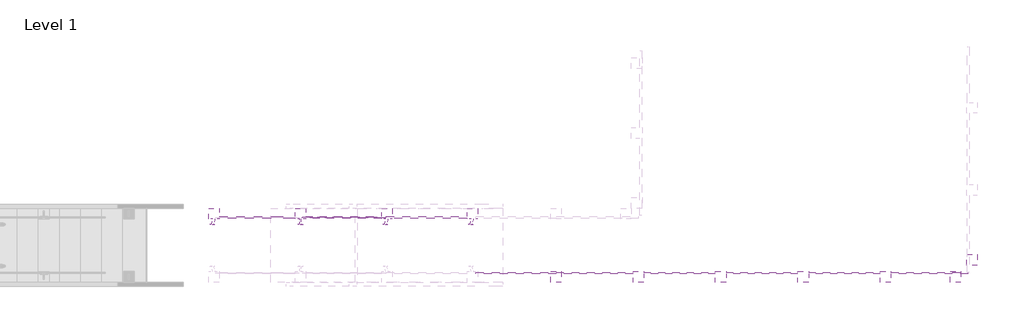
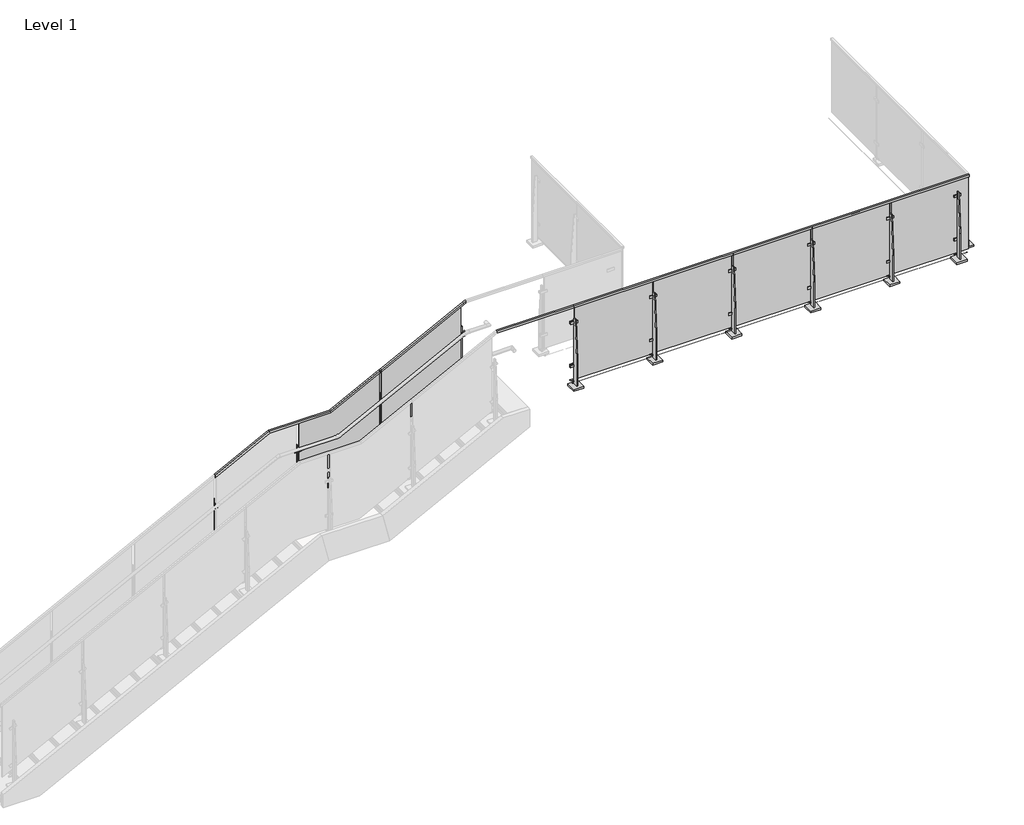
# One storey, part 25 of 37: 4 railings, 3 proxies.
"""IFC4 building model written with IfcOpenShell, lengths in millimetres."""

from ifc_helpers import new_model, si_unit, point, frame, frame_2d, origin, place, context, project, spatial, polyline, circle_curve, trimmed, segment, composite_curve, outline, extrude, faceted_brep, transform, mapped, element, save
from components import baluster_end_post_viva_solo_top_mount_e11f810b, baluster_end_post_viva_solo_top_mount_a5670d43, baluster_end_post_viva_solo_top_mount_67941749, baluster_landing_panel_viva_solo_upper_standard_glass_b2789405

model = new_model("IFC4")

# Units and contexts
model_context = context("Model", 3, world=origin())
ifc_project = project(units=[si_unit("LENGTHUNIT", "METRE", prefix="MILLI")], contexts=[model_context])

# Site, building, storey
site = spatial("IfcSite", under=ifc_project)
building = spatial("IfcBuilding", under=site)
storey = spatial("IfcBuildingStorey", under=building, Name="Level 1", Elevation=0.0)

# Proxies
placement = place(None, origin())
baluster_end_post_viva_solo_top_mount_shape = baluster_end_post_viva_solo_top_mount_e11f810b(model_context)
element("IfcBuildingElementProxy", 1, Name="Baluster-End-Post-VIVA-SOLO-Top Mount : ANCHORED TO CONCRETE_TOP MOUNT FOLD_STRAIGHT", ObjectType="Baluster-End-Post-VIVA-SOLO-Top Mount : ANCHORED TO CONCRETE_TOP MOUNT FOLD_STRAIGHT", at=placement, inside=storey, context=model_context, shape_type="MappedRepresentation", body=[
    mapped(baluster_end_post_viva_solo_top_mount_shape, transform((14529.6498344, 3844.054649, 3047.492), x_axis=(1.0, 0.0, 0.0), y_axis=(0.0, 1.0, 0.0), z_axis=(0.0, 0.0, 1.0))),
])
baluster_end_post_viva_solo_top_mount_2_shape = baluster_end_post_viva_solo_top_mount_a5670d43(model_context)
element("IfcBuildingElementProxy", 2, Name="Baluster-End-Post-VIVA-SOLO-Top Mount : ANCHORED TO CONCRETE_TOP MOUNT FOLD_STRAIGHT", ObjectType="Baluster-End-Post-VIVA-SOLO-Top Mount : ANCHORED TO CONCRETE_TOP MOUNT FOLD_STRAIGHT", at=placement, inside=storey, context=model_context, shape_type="MappedRepresentation", body=[
    mapped(baluster_end_post_viva_solo_top_mount_2_shape, transform((9449.6498344, 3844.054649, 3047.492), x_axis=(1.0, 0.0, 0.0), y_axis=(0.0, 1.0, 0.0), z_axis=(0.0, 0.0, 1.0))),
])
baluster_end_post_viva_solo_top_mount_3_shape = baluster_end_post_viva_solo_top_mount_67941749(model_context)
element("IfcBuildingElementProxy", 3, Name="Baluster-End-Post-VIVA-SOLO-Top Mount : ANCHORED TO CONCRETE_TOP MOUNT FOLD_STRAIGHT", ObjectType="Baluster-End-Post-VIVA-SOLO-Top Mount : ANCHORED TO CONCRETE_TOP MOUNT FOLD_STRAIGHT", at=placement, inside=storey, context=model_context, shape_type="MappedRepresentation", body=[
    mapped(baluster_end_post_viva_solo_top_mount_3_shape, transform((14498.2173344, 3818.4403158, 3047.492), x_axis=(0.0, 1.0, 0.0), y_axis=(-1.0, 0.0, 0.0), z_axis=(0.0, 0.0, 1.0))),
])

# Railings
baluster_landing_panel_viva_solo_upper_standard_glass_shape = baluster_landing_panel_viva_solo_upper_standard_glass_b2789405(model_context)
element("IfcRailing", 4, ObjectType="Baluster-Landing-Panel-VIVA-SOLO-Upper : Standard_Glass", at=placement, inside=storey, context=model_context, shape_type="MappedRepresentation", body=[
    mapped(baluster_landing_panel_viva_solo_upper_standard_glass_shape, transform((7346.0498081, 4531.6173783, 2120.3478261), x_axis=(0.0, -1.0, 0.0), y_axis=(1.0, 0.0, 0.0), z_axis=(0.0, 0.0, 1.0))),
])
element("IfcRailing", 5, ObjectType="VIVA-SOLO-Glass-Floor Mount-Landing", at=placement, inside=storey, context=model_context, shape_type="SolidModel", body=[
    faceted_brep([(5228.4873344, 4482.547149, 2882.4016967), (5228.4873344, 4504.772149, 2882.4016967), (5228.4873344, 4504.772149, 2853.9005081), (5228.4873344, 4500.009649, 2853.9005081), (5228.4873344, 4500.009649, 2877.0577238), (5228.4873344, 4487.309649, 2877.0577238), (5228.4873344, 4487.309649, 2853.9005081), (5228.4873344, 4482.547149, 2853.9005081), (5926.9873344, 4482.547149, 3237.9478261), (5926.9873344, 4504.772149, 3237.9478261), (5933.0798778, 4504.772149, 3212.5478261), (5933.0798778, 4500.009649, 3212.5478261), (5928.1296863, 4500.009649, 3233.1853261), (5928.1296863, 4487.309649, 3233.1853261), (5933.0798778, 4487.309649, 3212.5478261), (5933.0798778, 4482.547149, 3212.5478261), (6708.0373344, 4482.547149, 3237.9478261), (6708.0373344, 4504.772149, 3237.9478261), (6714.1298778, 4504.772149, 3212.5478261), (6714.1298778, 4500.009649, 3212.5478261), (6709.1796863, 4500.009649, 3233.1853261), (6709.1796863, 4487.309649, 3233.1853261), (6714.1298778, 4487.309649, 3212.5478261), (6714.1298778, 4482.547149, 3212.5478261), (7362.0873344, 4482.547149, 3570.8682927), (7362.0873344, 4482.547149, 3542.3671041), (7362.0873344, 4487.309649, 3542.3671041), (7362.0873344, 4487.309649, 3565.5243198), (7362.0873344, 4500.009649, 3565.5243198), (7362.0873344, 4500.009649, 3542.3671041), (7362.0873344, 4504.772149, 3542.3671041), (7362.0873344, 4504.772149, 3570.8682927)], [[[0, 1, 2, 3, 4, 5, 6, 7]], [[1, 0, 8, 9]], [[2, 1, 9, 10]], [[3, 2, 10, 11]], [[4, 3, 11, 12]], [[5, 4, 12, 13]], [[6, 5, 13, 14]], [[7, 6, 14, 15]], [[0, 7, 15, 8]], [[9, 8, 16, 17]], [[10, 9, 17, 18]], [[11, 10, 18, 19]], [[12, 11, 19, 20]], [[13, 12, 20, 21]], [[14, 13, 21, 22]], [[15, 14, 22, 23]], [[8, 15, 23, 16]], [[24, 25, 26, 27, 28, 29, 30, 31]], [[17, 16, 24, 31]], [[18, 17, 31, 30]], [[19, 18, 30, 29]], [[20, 19, 29, 28]], [[21, 20, 28, 27]], [[22, 21, 27, 26]], [[23, 22, 26, 25]], [[16, 23, 25, 24]]]),
    extrude(outline(polyline([(4509.534649, 2907.7478261), (4534.934649, 2907.7478261), (4573.034649, 2374.3478261), (4573.034649, 2120.3478261), (4509.534649, 2120.3478261), (4509.534649, 2907.7478261)])), frame((6288.9373344, 0.0, 0.0), z_axis=(1.0, 0.0, 0.0), x_axis=(0.0, 1.0, 0.0)), (0.0, 0.0, 1.0), 12.7),
    extrude(outline(composite_curve([segment(trimmed(circle_curve(frame_2d((4409.1154312, 2922.7272155)), 25.4), [point((4415.5388922, 2898.1528559))], [point((4402.7292179, 2898.1431499))], False, "CARTESIAN"), True, "CONTINUOUS"), segment(polyline([(4402.7292179, 2898.1431499), (4402.7292179, 2900.8476744)]), True, "CONTINUOUS"), segment(trimmed(circle_curve(frame_2d((4409.1154312, 2925.43174)), 25.4), [point((4402.7292179, 2900.8476744))], [point((4414.1617828, 2900.5380794))], True, "CARTESIAN"), True, "CONTINUOUS"), segment(polyline([(4414.1617828, 2900.5380794), (4415.5388922, 2898.1528559)]), True, "CONTINUOUS")], self_intersect=False)), frame((6269.8833871, 0.0, 0.0), z_axis=(1.0, 0.0, 0.0), x_axis=(0.0, 1.0, 0.0)), (0.0, 0.0, 1.0), 51.8675839),
    extrude(outline(polyline([(4403.172149, 2897.9541454), (4415.872149, 2897.9541454), (4415.872149, 2894.7791454), (4474.609649, 2863.0291454), (4477.784649, 2863.0291454), (4477.784649, 2832.8666454), (4466.672149, 2832.8666454), (4403.172149, 2894.7791454), (4403.172149, 2897.9541454)])), frame((6288.7819804, 0.0, 0.0), z_axis=(1.0, 0.0, 0.0), x_axis=(0.0, 1.0, 0.0)), (0.0, 0.0, 1.0), 12.6482649),
    extrude(outline(polyline([(6361.1685844, 4475.403399), (6229.4060844, 4475.403399), (6229.4060844, 4607.165899), (6361.1685844, 4607.165899), (6361.1685844, 4475.403399)])), frame((0.0, 0.0, 2120.3478261), z_axis=(0.0, 0.0, 1.0), x_axis=(1.0, 0.0, 0.0)), (0.0, 0.0, 1.0), 25.4),
    extrude(outline(polyline([(6250.8373344, 4500.009649), (6250.8373344, 4509.534649), (6339.7373344, 4509.534649), (6339.7373344, 4500.009649), (6250.8373344, 4500.009649)])), frame((0.0, 0.0, 2372.3388955), z_axis=(0.0, 0.0, 1.0), x_axis=(1.0, 0.0, 0.0)), (0.0, 0.0, 1.0), 31.75),
    extrude(outline(polyline([(6250.8373344, 4500.009649), (6250.8373344, 4509.534649), (6339.7373344, 4509.534649), (6339.7373344, 4500.009649), (6250.8373344, 4500.009649)])), frame((0.0, 0.0, 2831.6470448), z_axis=(0.0, 0.0, 1.0), x_axis=(1.0, 0.0, 0.0)), (0.0, 0.0, 1.0), 31.75),
    extrude(outline(polyline([(6250.8373344, 4477.784649), (6250.8373344, 4487.309649), (6339.7373344, 4487.309649), (6339.7373344, 4477.784649), (6250.8373344, 4477.784649)])), frame((0.0, 0.0, 2372.3388955), z_axis=(0.0, 0.0, 1.0), x_axis=(1.0, 0.0, 0.0)), (0.0, 0.0, 1.0), 31.75),
    extrude(outline(polyline([(6250.8373344, 4477.784649), (6250.8373344, 4487.309649), (6339.7373344, 4487.309649), (6339.7373344, 4477.784649), (6250.8373344, 4477.784649)])), frame((0.0, 0.0, 2831.6470448), z_axis=(0.0, 0.0, 1.0), x_axis=(1.0, 0.0, 0.0)), (0.0, 0.0, 1.0), 31.75),
    extrude(outline(polyline([(2196.5478261, 6339.7373344), (2196.5478261, 6250.8373344), (2190.1978261, 6250.8373344), (2168.2831774, 6295.2873344), (2190.1978261, 6339.7373344), (2196.5478261, 6339.7373344)])), frame((0.0, 4487.309649, 0.0), z_axis=(0.0, 1.0, 0.0), x_axis=(0.0, 0.0, 1.0)), (0.0, 0.0, 1.0), 12.7),
    extrude(outline(composite_curve([segment(trimmed(circle_curve(frame_2d((2388.2138955, 6295.2873344)), 6.35), [point((2388.2138955, 6301.6373344))], [point((2388.2138955, 6288.9373344))], False, "CARTESIAN"), True, "CONTINUOUS"), segment(trimmed(circle_curve(frame_2d((2388.2138955, 6295.2873344)), 6.35), [point((2388.2138955, 6288.9373344))], [point((2388.2138955, 6301.6373344))], False, "CARTESIAN"), True, "CONTINUOUS")], self_intersect=False)), frame((0.0, 4487.309649, 0.0), z_axis=(0.0, 1.0, 0.0), x_axis=(0.0, 0.0, 1.0)), (0.0, 0.0, 1.0), 12.7),
    extrude(outline(composite_curve([segment(trimmed(circle_curve(frame_2d((2847.5220448, 6295.2873344)), 6.35), [point((2847.5220448, 6301.6373344))], [point((2847.5220448, 6288.9373344))], False, "CARTESIAN"), True, "CONTINUOUS"), segment(trimmed(circle_curve(frame_2d((2847.5220448, 6295.2873344)), 6.35), [point((2847.5220448, 6288.9373344))], [point((2847.5220448, 6301.6373344))], False, "CARTESIAN"), True, "CONTINUOUS")], self_intersect=False)), frame((0.0, 4487.309649, 0.0), z_axis=(0.0, 1.0, 0.0), x_axis=(0.0, 0.0, 1.0)), (0.0, 0.0, 1.0), 12.7),
    extrude(outline(composite_curve([segment(trimmed(circle_curve(frame_2d((2180.6728261, 6295.2873344)), 11.1125), [point((2180.6728261, 6306.3998344))], [point((2180.6728261, 6284.1748344))], False, "CARTESIAN"), True, "CONTINUOUS"), segment(trimmed(circle_curve(frame_2d((2180.6728261, 6295.2873344)), 11.1125), [point((2180.6728261, 6284.1748344))], [point((2180.6728261, 6306.3998344))], False, "CARTESIAN"), True, "CONTINUOUS")], self_intersect=False)), frame((0.0, 4484.134649, 0.0), z_axis=(0.0, 1.0, 0.0), x_axis=(0.0, 0.0, 1.0)), (0.0, 0.0, 1.0), 25.4),
    extrude(outline(polyline([(-12.7, 0.0), (0.0, 0.0), (0.0, -3.175), (58.7375, -34.9249999), (61.9125, -34.9249999), (61.9125, -65.0875), (50.8, -65.0875), (-12.7, -3.175), (-12.7, 0.0)])), frame((7334.466871, 4415.872149, 3185.7729269), z_axis=(0.8987940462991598, 0.0, 0.4383711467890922), x_axis=(0.0, 1.0, 0.0)), (0.0, 0.0, 1.0), 12.7),
    extrude(outline(polyline([(4509.534649, 3240.6682927), (4534.934649, 3240.6682927), (4573.034649, 2707.2682927), (4573.034649, 2385.3913043), (4509.534649, 2385.3913043), (4509.534649, 3240.6682927)])), frame((7355.7373344, 0.0, 0.0), z_axis=(1.0, 0.0, 0.0), x_axis=(0.0, 1.0, 0.0)), (0.0, 0.0, 1.0), 12.7),
    extrude(outline(polyline([(0.0, 88.9000001), (9.525, 88.9000001), (9.525, 0.0), (0.0, 0.0), (0.0, 88.9000001)])), frame((7409.0060477, 4500.009649, 2681.3748204), z_axis=(-0.4383711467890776, 0.0, 0.8987940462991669), x_axis=(0.0, 1.0, 0.0)), (0.0, 0.0, 1.0), 31.75),
    extrude(outline(polyline([(0.0, 88.9000001), (9.525, 88.9000001), (9.525, 0.0), (0.0, 0.0), (0.0, 88.9000001)])), frame((7409.0060477, 4477.784649, 3148.8285059), z_axis=(-0.4383711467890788, 0.0, 0.8987940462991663), x_axis=(0.0, 1.0, 0.0)), (0.0, 0.0, 1.0), 31.75),
    extrude(outline(polyline([(0.0, 88.9000001), (9.525, 88.9000001), (9.525, 0.0), (0.0, 0.0), (0.0, 88.9000001)])), frame((7409.0060477, 4500.009649, 3148.8285059), z_axis=(-0.4383711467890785, 0.0, 0.8987940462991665), x_axis=(0.0, 1.0, 0.0)), (0.0, 0.0, 1.0), 31.75),
    extrude(outline(polyline([(0.0, 88.9000001), (9.525, 88.9000001), (9.525, 0.0), (0.0, 0.0), (0.0, 88.9000001)])), frame((7409.0060477, 4477.784649, 2681.3748204), z_axis=(-0.4383711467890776, 0.0, 0.8987940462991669), x_axis=(0.0, 1.0, 0.0)), (0.0, 0.0, 1.0), 31.75),
    extrude(outline(polyline([(2547.8861353, 7397.8574331), (2553.5934775, 7395.0737763), (2514.6222826, 7315.1709856), (2508.9149404, 7317.9546424), (2508.7037821, 7367.5127874), (2547.8861353, 7397.8574331)])), frame((0.0, 4487.309649, 0.0), z_axis=(0.0, 1.0, 0.0), x_axis=(0.0, 0.0, 1.0)), (0.0, 0.0, 1.0), 12.7),
    extrude(outline(composite_curve([segment(trimmed(circle_curve(frame_2d((24.5007934, -6.6985914)), 25.4), [point((0.0, 0.0))], [point((6.4034747, 11.1240644))], False, "CARTESIAN"), True, "CONTINUOUS"), segment(polyline([(6.4034747, 11.1240644), (8.7901892, 9.7460941)]), True, "CONTINUOUS"), segment(trimmed(circle_curve(frame_2d((26.8875078, -8.0765616)), 25.4), [point((8.7901892, 9.7460941))], [point((2.8057896, 0.0))], True, "CARTESIAN"), True, "CONTINUOUS"), segment(polyline([(2.8057896, 0.0), (0.0, 0.0)]), True, "CONTINUOUS")], self_intersect=False)), frame((7318.5457535, 4415.9713954, 3174.9597282), z_axis=(0.8987940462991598, 0.0, 0.4383711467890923), x_axis=(-0.37964054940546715, -0.5000000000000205, 0.7783784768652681)), (0.0, 0.0, 1.0), 50.8),
    extrude(outline(polyline([(7427.9685844, 4475.403399), (7296.2060844, 4475.403399), (7296.2060844, 4607.165899), (7427.9685844, 4607.165899), (7427.9685844, 4475.403399)])), frame((0.0, 0.0, 2385.3913043), z_axis=(0.0, 0.0, 1.0), x_axis=(1.0, 0.0, 0.0)), (0.0, 0.0, 1.0), 25.4),
    extrude(outline(composite_curve([segment(trimmed(circle_curve(frame_2d((2677.2195227, 7362.0955103)), 6.35), [point((2677.2195227, 7368.4455103))], [point((2677.2195227, 7355.7455103))], False, "CARTESIAN"), True, "CONTINUOUS"), segment(trimmed(circle_curve(frame_2d((2677.2195227, 7362.0955103)), 6.35), [point((2677.2195227, 7355.7455103))], [point((2677.2195227, 7368.4455103))], False, "CARTESIAN"), True, "CONTINUOUS")], self_intersect=False)), frame((0.0, 4487.309649, 0.0), z_axis=(0.0, 1.0, 0.0), x_axis=(0.0, 0.0, 1.0)), (0.0, 0.0, 1.0), 12.7),
    extrude(outline(composite_curve([segment(trimmed(circle_curve(frame_2d((3143.6112639, 7362.0955103)), 6.35), [point((3143.6112639, 7368.4455103))], [point((3143.6112639, 7355.7455103))], False, "CARTESIAN"), True, "CONTINUOUS"), segment(trimmed(circle_curve(frame_2d((3143.6112639, 7362.0955103)), 6.35), [point((3143.6112639, 7355.7455103))], [point((3143.6112639, 7368.4455103))], False, "CARTESIAN"), True, "CONTINUOUS")], self_intersect=False)), frame((0.0, 4487.309649, 0.0), z_axis=(0.0, 1.0, 0.0), x_axis=(0.0, 0.0, 1.0)), (0.0, 0.0, 1.0), 12.7),
    extrude(outline(composite_curve([segment(trimmed(circle_curve(frame_2d((2519.9003816, 7362.0955103)), 11.1125), [point((2519.9003816, 7373.2080103))], [point((2519.9003816, 7350.9830103))], False, "CARTESIAN"), True, "CONTINUOUS"), segment(trimmed(circle_curve(frame_2d((2519.9003816, 7362.0955103)), 11.1125), [point((2519.9003816, 7350.9830103))], [point((2519.9003816, 7373.2080103))], False, "CARTESIAN"), True, "CONTINUOUS")], self_intersect=False)), frame((0.0, 4484.134649, 0.0), z_axis=(0.0, 1.0, 0.0), x_axis=(0.0, 0.0, 1.0)), (0.0, 0.0, 1.0), 25.4),
    extrude(outline(polyline([(-12.7, 0.0), (0.0, 0.0), (0.0, -3.1749999), (58.7375, -34.9249999), (61.9125, -34.9249999), (61.9125, -65.0874999), (50.8, -65.0874999), (-12.7, -3.1749999), (-12.7, 0.0)])), frame((5200.866871, 4415.872149, 2497.3063309), z_axis=(0.8987940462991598, 0.0, 0.4383711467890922), x_axis=(0.0, 1.0, 0.0)), (0.0, 0.0, 1.0), 12.7),
    extrude(outline(polyline([(4509.534649, 2552.2016967), (4534.934649, 2552.2016967), (4573.034649, 2018.8016967), (4573.034649, 1722.7826087), (4509.534649, 1722.7826087), (4509.534649, 2552.2016967)])), frame((5222.1373344, 0.0, 0.0), z_axis=(1.0, 0.0, 0.0), x_axis=(0.0, 1.0, 0.0)), (0.0, 0.0, 1.0), 12.7),
    extrude(outline(polyline([(0.0, 88.9000001), (9.525, 88.9000001), (9.525, 0.0), (0.0, 0.0), (0.0, 88.9000001)])), frame((5275.4060477, 4500.009649, 2018.7661247), z_axis=(-0.4383711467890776, 0.0, 0.8987940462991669), x_axis=(0.0, 1.0, 0.0)), (0.0, 0.0, 1.0), 31.75),
    extrude(outline(polyline([(0.0, 88.9000001), (9.525, 88.9000001), (9.525, 0.0), (0.0, 0.0), (0.0, 88.9000001)])), frame((5275.4060477, 4477.784649, 2460.3619099), z_axis=(-0.4383711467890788, 0.0, 0.8987940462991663), x_axis=(0.0, 1.0, 0.0)), (0.0, 0.0, 1.0), 31.75),
    extrude(outline(polyline([(0.0, 88.9000001), (9.525, 88.9000001), (9.525, 0.0), (0.0, 0.0), (0.0, 88.9000001)])), frame((5275.4060477, 4500.009649, 2460.3619099), z_axis=(-0.4383711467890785, 0.0, 0.8987940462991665), x_axis=(0.0, 1.0, 0.0)), (0.0, 0.0, 1.0), 31.75),
    extrude(outline(polyline([(0.0, 88.9000001), (9.525, 88.9000001), (9.525, 0.0), (0.0, 0.0), (0.0, 88.9000001)])), frame((5275.4060477, 4477.784649, 2018.7661247), z_axis=(-0.4383711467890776, 0.0, 0.8987940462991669), x_axis=(0.0, 1.0, 0.0)), (0.0, 0.0, 1.0), 31.75),
    extrude(outline(polyline([(1885.2774397, 5264.2574331), (1890.9847819, 5261.4737763), (1852.0135869, 5181.5709856), (1846.3062447, 5184.3546424), (1846.0950864, 5233.9127874), (1885.2774397, 5264.2574331)])), frame((0.0, 4487.309649, 0.0), z_axis=(0.0, 1.0, 0.0), x_axis=(0.0, 0.0, 1.0)), (0.0, 0.0, 1.0), 12.7),
    extrude(outline(composite_curve([segment(trimmed(circle_curve(frame_2d((24.5007934, -6.6985914)), 25.4), [point((0.0, 0.0))], [point((6.4034747, 11.1240644))], False, "CARTESIAN"), True, "CONTINUOUS"), segment(polyline([(6.4034747, 11.1240644), (8.7901892, 9.7460941)]), True, "CONTINUOUS"), segment(trimmed(circle_curve(frame_2d((26.8875079, -8.0765616)), 25.4), [point((8.7901892, 9.7460941))], [point((2.8057897, 0.0))], True, "CARTESIAN"), True, "CONTINUOUS"), segment(polyline([(2.8057897, 0.0), (0.0, 0.0)]), True, "CONTINUOUS")], self_intersect=False)), frame((5184.9457535, 4415.9713954, 2486.4931322), z_axis=(0.8987940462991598, 0.0, 0.4383711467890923), x_axis=(-0.37964054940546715, -0.5000000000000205, 0.7783784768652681)), (0.0, 0.0, 1.0), 50.8),
    extrude(outline(polyline([(5294.3685844, 4475.403399), (5162.6060844, 4475.403399), (5162.6060844, 4607.165899), (5294.3685844, 4607.165899), (5294.3685844, 4475.403399)])), frame((0.0, 0.0, 1722.7826087), z_axis=(0.0, 0.0, 1.0), x_axis=(1.0, 0.0, 0.0)), (0.0, 0.0, 1.0), 25.4),
    extrude(outline(composite_curve([segment(trimmed(circle_curve(frame_2d((2014.610827, 5228.4955103)), 6.35), [point((2014.610827, 5234.8455103))], [point((2014.610827, 5222.1455103))], False, "CARTESIAN"), True, "CONTINUOUS"), segment(trimmed(circle_curve(frame_2d((2014.610827, 5228.4955103)), 6.35), [point((2014.610827, 5222.1455103))], [point((2014.610827, 5234.8455103))], False, "CARTESIAN"), True, "CONTINUOUS")], self_intersect=False)), frame((0.0, 4487.309649, 0.0), z_axis=(0.0, 1.0, 0.0), x_axis=(0.0, 0.0, 1.0)), (0.0, 0.0, 1.0), 12.7),
    extrude(outline(composite_curve([segment(trimmed(circle_curve(frame_2d((2455.144668, 5228.4955103)), 6.35), [point((2455.144668, 5234.8455103))], [point((2455.144668, 5222.1455103))], False, "CARTESIAN"), True, "CONTINUOUS"), segment(trimmed(circle_curve(frame_2d((2455.144668, 5228.4955103)), 6.35), [point((2455.144668, 5222.1455103))], [point((2455.144668, 5234.8455103))], False, "CARTESIAN"), True, "CONTINUOUS")], self_intersect=False)), frame((0.0, 4487.309649, 0.0), z_axis=(0.0, 1.0, 0.0), x_axis=(0.0, 0.0, 1.0)), (0.0, 0.0, 1.0), 12.7),
    extrude(outline(composite_curve([segment(trimmed(circle_curve(frame_2d((1857.2916859, 5228.4955103)), 11.1125), [point((1857.2916859, 5239.6080103))], [point((1857.2916859, 5217.3830103))], False, "CARTESIAN"), True, "CONTINUOUS"), segment(trimmed(circle_curve(frame_2d((1857.2916859, 5228.4955103)), 11.1125), [point((1857.2916859, 5217.3830103))], [point((1857.2916859, 5239.6080103))], False, "CARTESIAN"), True, "CONTINUOUS")], self_intersect=False)), frame((0.0, 4484.134649, 0.0), z_axis=(0.0, 1.0, 0.0), x_axis=(0.0, 0.0, 1.0)), (0.0, 0.0, 1.0), 25.4),
])
element("IfcRailing", 6, ObjectType="VIVA-SOLO-Glass-Floor Mount-Stair_Right_Upper", at=placement, inside=storey, context=model_context, shape_type="SolidModel", body=[
    faceted_brep([(7349.3873344, 4482.547149, 3564.4038176), (7349.3873344, 4504.772149, 3564.4038176), (7349.3873344, 4504.772149, 3535.902629), (7349.3873344, 4500.009649, 3535.902629), (7349.3873344, 4500.009649, 3559.0598447), (7349.3873344, 4487.309649, 3559.0598447), (7349.3873344, 4487.309649, 3535.902629), (7349.3873344, 4482.547149, 3535.902629), (8416.1873344, 4482.547149, 4107.4197243), (8416.1873344, 4504.772149, 4107.4197243), (8427.7094971, 4504.772149, 4084.7834754), (8427.7094971, 4500.009649, 4084.7834754), (8418.3477399, 4500.009649, 4103.1754276), (8418.3477399, 4487.309649, 4103.1754276), (8427.7094971, 4487.309649, 4084.7834754), (8427.7094971, 4482.547149, 4084.7834754), (8455.6367094, 4482.547149, 4127.5), (8455.6367094, 4482.547149, 4098.9988114), (8455.6367094, 4487.309649, 4098.9988114), (8455.6367094, 4487.309649, 4122.1560271), (8455.6367094, 4500.009649, 4122.1560271), (8455.6367094, 4500.009649, 4098.9988114), (8455.6367094, 4504.772149, 4098.9988114), (8455.6367094, 4504.772149, 4127.5)], [[[0, 1, 2, 3, 4, 5, 6, 7]], [[1, 0, 8, 9]], [[2, 1, 9, 10]], [[3, 2, 10, 11]], [[4, 3, 11, 12]], [[5, 4, 12, 13]], [[6, 5, 13, 14]], [[7, 6, 14, 15]], [[0, 7, 15, 8]], [[16, 17, 18, 19, 20, 21, 22, 23]], [[9, 8, 16, 23]], [[10, 9, 23, 22]], [[11, 10, 22, 21]], [[12, 11, 21, 20]], [[13, 12, 20, 19]], [[14, 13, 19, 18]], [[15, 14, 18, 17]], [[8, 15, 17, 16]]]),
    extrude(outline(polyline([(4089.1567741, 8391.170381), (3571.9987678, 7375.170381), (2544.2557794, 7375.170381), (3061.4137858, 8391.170381), (4089.1567741, 8391.170381)])), frame((0.0, 4487.309649, 0.0), z_axis=(0.0, 1.0, 0.0), x_axis=(0.0, 0.0, 1.0)), (0.0, 0.0, 1.0), 12.7),
    extrude(outline(polyline([(-12.7, 0.0), (0.0, 0.0), (0.0, -3.175), (58.7375, -34.9249999), (61.9125, -34.9249999), (61.9125, -65.0875), (50.8, -65.0875), (-12.7, -3.175), (-12.7, 0.0)])), frame((8388.566871, 4415.872149, 3722.3243585), z_axis=(0.8987940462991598, 0.0, 0.4383711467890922), x_axis=(0.0, 1.0, 0.0)), (0.0, 0.0, 1.0), 12.7),
    extrude(outline(polyline([(4509.534649, 3777.2197243), (4534.934649, 3777.2197243), (4573.034649, 3243.8197243), (4573.034649, 2915.4782609), (4509.534649, 2915.4782609), (4509.534649, 3777.2197243)])), frame((8409.8373344, 0.0, 0.0), z_axis=(1.0, 0.0, 0.0), x_axis=(0.0, 1.0, 0.0)), (0.0, 0.0, 1.0), 12.7),
    extrude(outline(polyline([(0.0, 88.9000001), (9.525, 88.9000001), (9.525, 0.0), (0.0, 0.0), (0.0, 88.9000001)])), frame((8463.1060477, 4500.009649, 3211.4617769), z_axis=(-0.4383711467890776, 0.0, 0.8987940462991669), x_axis=(0.0, 1.0, 0.0)), (0.0, 0.0, 1.0), 31.75),
    extrude(outline(polyline([(0.0, 88.9000001), (9.525, 88.9000001), (9.525, 0.0), (0.0, 0.0), (0.0, 88.9000001)])), frame((8463.1060477, 4477.784649, 3685.3799375), z_axis=(-0.4383711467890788, 0.0, 0.8987940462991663), x_axis=(0.0, 1.0, 0.0)), (0.0, 0.0, 1.0), 31.75),
    extrude(outline(polyline([(0.0, 88.9000001), (9.525, 88.9000001), (9.525, 0.0), (0.0, 0.0), (0.0, 88.9000001)])), frame((8463.1060477, 4500.009649, 3685.3799375), z_axis=(-0.4383711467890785, 0.0, 0.8987940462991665), x_axis=(0.0, 1.0, 0.0)), (0.0, 0.0, 1.0), 31.75),
    extrude(outline(polyline([(0.0, 88.9000001), (9.525, 88.9000001), (9.525, 0.0), (0.0, 0.0), (0.0, 88.9000001)])), frame((8463.1060477, 4477.784649, 3211.4617769), z_axis=(-0.4383711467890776, 0.0, 0.8987940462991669), x_axis=(0.0, 1.0, 0.0)), (0.0, 0.0, 1.0), 31.75),
    extrude(outline(polyline([(3077.9730919, 8451.9574331), (3083.6804341, 8449.1737763), (3044.7092391, 8369.2709856), (3039.0018969, 8372.0546424), (3038.7907386, 8421.6127874), (3077.9730919, 8451.9574331)])), frame((0.0, 4487.309649, 0.0), z_axis=(0.0, 1.0, 0.0), x_axis=(0.0, 0.0, 1.0)), (0.0, 0.0, 1.0), 12.7),
    extrude(outline(composite_curve([segment(trimmed(circle_curve(frame_2d((24.5007934, -6.6985914)), 25.4), [point((0.0, 0.0))], [point((6.4034747, 11.1240644))], False, "CARTESIAN"), True, "CONTINUOUS"), segment(polyline([(6.4034747, 11.1240644), (8.7901892, 9.7460941)]), True, "CONTINUOUS"), segment(trimmed(circle_curve(frame_2d((26.8875078, -8.0765616)), 25.4), [point((8.7901892, 9.7460941))], [point((2.8057896, 0.0))], True, "CARTESIAN"), True, "CONTINUOUS"), segment(polyline([(2.8057896, 0.0), (0.0, 0.0)]), True, "CONTINUOUS")], self_intersect=False)), frame((8372.6457535, 4415.9713954, 3711.5111598), z_axis=(0.8987940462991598, 0.0, 0.4383711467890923), x_axis=(-0.3796405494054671, -0.5000000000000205, 0.7783784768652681)), (0.0, 0.0, 1.0), 50.8),
    extrude(outline(polyline([(8482.0685844, 4475.403399), (8350.3060844, 4475.403399), (8350.3060844, 4607.165899), (8482.0685844, 4607.165899), (8482.0685844, 4475.403399)])), frame((0.0, 0.0, 2915.4782609), z_axis=(0.0, 0.0, 1.0), x_axis=(1.0, 0.0, 0.0)), (0.0, 0.0, 1.0), 25.4),
    extrude(outline(composite_curve([segment(trimmed(circle_curve(frame_2d((3207.3064792, 8416.1955103)), 6.35), [point((3207.3064792, 8422.5455103))], [point((3207.3064792, 8409.8455103))], False, "CARTESIAN"), True, "CONTINUOUS"), segment(trimmed(circle_curve(frame_2d((3207.3064792, 8416.1955103)), 6.35), [point((3207.3064792, 8409.8455103))], [point((3207.3064792, 8422.5455103))], False, "CARTESIAN"), True, "CONTINUOUS")], self_intersect=False)), frame((0.0, 4487.309649, 0.0), z_axis=(0.0, 1.0, 0.0), x_axis=(0.0, 0.0, 1.0)), (0.0, 0.0, 1.0), 12.7),
    extrude(outline(composite_curve([segment(trimmed(circle_curve(frame_2d((3680.1626955, 8416.1955103)), 6.35), [point((3680.1626955, 8422.5455103))], [point((3680.1626955, 8409.8455103))], False, "CARTESIAN"), True, "CONTINUOUS"), segment(trimmed(circle_curve(frame_2d((3680.1626955, 8416.1955103)), 6.35), [point((3680.1626955, 8409.8455103))], [point((3680.1626955, 8422.5455103))], False, "CARTESIAN"), True, "CONTINUOUS")], self_intersect=False)), frame((0.0, 4487.309649, 0.0), z_axis=(0.0, 1.0, 0.0), x_axis=(0.0, 0.0, 1.0)), (0.0, 0.0, 1.0), 12.7),
    extrude(outline(composite_curve([segment(trimmed(circle_curve(frame_2d((3049.9873381, 8416.1955103)), 11.1125), [point((3049.9873381, 8427.3080103))], [point((3049.9873381, 8405.0830103))], False, "CARTESIAN"), True, "CONTINUOUS"), segment(trimmed(circle_curve(frame_2d((3049.9873381, 8416.1955103)), 11.1125), [point((3049.9873381, 8405.0830103))], [point((3049.9873381, 8427.3080103))], False, "CARTESIAN"), True, "CONTINUOUS")], self_intersect=False)), frame((0.0, 4484.134649, 0.0), z_axis=(0.0, 1.0, 0.0), x_axis=(0.0, 0.0, 1.0)), (0.0, 0.0, 1.0), 25.4),
])
element("IfcRailing", 7, ObjectType="VIVA-SOLO-Glass-Floor Mount-Straight", at=placement, inside=storey, context=model_context, shape_type="SolidModel", body=[
    extrude(outline(composite_curve([segment(trimmed(circle_curve(frame_2d((3844.054649, 3047.746)), 0.254), [point((3843.800649, 3047.746))], [point((3844.308649, 3047.746))], False, "CARTESIAN"), True, "CONTINUOUS"), segment(trimmed(circle_curve(frame_2d((3844.054649, 3047.746)), 0.254), [point((3844.308649, 3047.746))], [point((3843.800649, 3047.746))], False, "CARTESIAN"), True, "CONTINUOUS")], self_intersect=False)), frame((9449.6498344, 0.0, 0.0), z_axis=(1.0, 0.0, 0.0), x_axis=(0.0, 1.0, 0.0)), (0.0, 0.0, 1.0), 5080.0),
    extrude(outline(composite_curve([segment(trimmed(circle_curve(frame_2d((3844.054649, 3047.746)), 0.254), [point((3843.800649, 3047.746))], [point((3844.308649, 3047.746))], False, "CARTESIAN"), True, "CONTINUOUS"), segment(trimmed(circle_curve(frame_2d((3844.054649, 3047.746)), 0.254), [point((3844.308649, 3047.746))], [point((3843.800649, 3047.746))], False, "CARTESIAN"), True, "CONTINUOUS")], self_intersect=False)), frame((9449.6498344, 0.0, 0.0), z_axis=(1.0, 0.0, 0.0), x_axis=(0.0, 1.0, 0.0)), (0.0, 0.0, 1.0), 5080.0),
    faceted_brep([(14529.6498344, 3796.747149, 4127.5), (14529.6498344, 3796.747149, 4102.1), (14529.6498344, 3801.509649, 4102.1), (14529.6498344, 3801.509649, 4122.7375), (14529.6498344, 3814.209649, 4122.7375), (14529.6498344, 3814.209649, 4102.1), (14529.6498344, 3818.972149, 4102.1), (14529.6498344, 3818.972149, 4127.5), (9449.6498344, 3818.972149, 4127.5), (9449.6498344, 3796.747149, 4127.5), (9449.6498344, 3818.972149, 4102.1), (9449.6498344, 3814.209649, 4102.1), (9449.6498344, 3814.209649, 4122.7375), (9449.6498344, 3801.509649, 4122.7375), (9449.6498344, 3801.509649, 4102.1), (9449.6498344, 3796.747149, 4102.1), (8455.6367094, 3796.747149, 4127.5), (8455.6367094, 3818.972149, 4127.5), (8455.6367094, 3818.972149, 4102.1), (8455.6367094, 3814.209649, 4102.1), (8455.6367094, 3814.209649, 4122.7375), (8455.6367094, 3801.509649, 4122.7375), (8455.6367094, 3801.509649, 4102.1), (8455.6367094, 3796.747149, 4102.1)], [[[0, 1, 2, 3, 4, 5, 6, 7]], [[8, 9, 0, 7]], [[10, 8, 7, 6]], [[11, 10, 6, 5]], [[12, 11, 5, 4]], [[13, 12, 4, 3]], [[14, 13, 3, 2]], [[15, 14, 2, 1]], [[9, 15, 1, 0]], [[16, 17, 18, 19, 20, 21, 22, 23]], [[17, 16, 9, 8]], [[18, 17, 8, 10]], [[19, 18, 10, 11]], [[20, 19, 11, 12]], [[21, 20, 12, 13]], [[22, 21, 13, 14]], [[23, 22, 14, 15]], [[16, 23, 15, 9]]]),
    extrude(outline(polyline([(13526.732881, 3814.209649), (14517.332881, 3814.209649), (14517.332881, 3801.509649), (13526.732881, 3801.509649), (13526.732881, 3814.209649)])), frame((0.0, 0.0, 3124.2), z_axis=(0.0, 0.0, 1.0), x_axis=(1.0, 0.0, 0.0)), (0.0, 0.0, 1.0), 998.474),
    extrude(outline(polyline([(3791.984649, 3962.4), (3791.984649, 3048.0), (3728.484649, 3048.0), (3728.484649, 3429.0), (3766.584649, 3962.4), (3791.984649, 3962.4)])), frame((13507.2998344, 0.0, 0.0), z_axis=(1.0, 0.0, 0.0), x_axis=(0.0, 1.0, 0.0)), (0.0, 0.0, 1.0), 12.7),
    extrude(outline(polyline([(13579.5310844, 3826.115899), (13579.5310844, 3694.353399), (13447.7685844, 3694.353399), (13447.7685844, 3826.115899), (13579.5310844, 3826.115899)])), frame((0.0, 0.0, 3048.0), z_axis=(0.0, 0.0, 1.0), x_axis=(1.0, 0.0, 0.0)), (0.0, 0.0, 1.0), 25.4),
    extrude(outline(polyline([(13469.1998344, 3801.509649), (13558.0998344, 3801.509649), (13558.0998344, 3791.984649), (13469.1998344, 3791.984649), (13469.1998344, 3801.509649)])), frame((0.0, 0.0, 3299.9910694), z_axis=(0.0, 0.0, 1.0), x_axis=(1.0, 0.0, 0.0)), (0.0, 0.0, 1.0), 31.75),
    extrude(outline(polyline([(13469.1998344, 3801.509649), (13558.0998344, 3801.509649), (13558.0998344, 3791.984649), (13469.1998344, 3791.984649), (13469.1998344, 3801.509649)])), frame((0.0, 0.0, 3886.2992187), z_axis=(0.0, 0.0, 1.0), x_axis=(1.0, 0.0, 0.0)), (0.0, 0.0, 1.0), 31.75),
    extrude(outline(polyline([(13469.1998344, 3823.734649), (13558.0998344, 3823.734649), (13558.0998344, 3814.209649), (13469.1998344, 3814.209649), (13469.1998344, 3823.734649)])), frame((0.0, 0.0, 3299.9910694), z_axis=(0.0, 0.0, 1.0), x_axis=(1.0, 0.0, 0.0)), (0.0, 0.0, 1.0), 31.75),
    extrude(outline(polyline([(13469.1998344, 3823.734649), (13558.0998344, 3823.734649), (13558.0998344, 3814.209649), (13469.1998344, 3814.209649), (13469.1998344, 3823.734649)])), frame((0.0, 0.0, 3886.2992187), z_axis=(0.0, 0.0, 1.0), x_axis=(1.0, 0.0, 0.0)), (0.0, 0.0, 1.0), 31.75),
    extrude(outline(polyline([(3124.2, 13558.0998344), (3124.2, 13469.1998344), (3117.85, 13469.1998344), (3095.9353513, 13513.6498344), (3117.85, 13558.0998344), (3124.2, 13558.0998344)])), frame((0.0, 3801.509649, 0.0), z_axis=(0.0, 1.0, 0.0), x_axis=(0.0, 0.0, 1.0)), (0.0, 0.0, 1.0), 12.7),
    extrude(outline(composite_curve([segment(trimmed(circle_curve(frame_2d((3315.8660694, 13513.6498344)), 6.35), [point((3315.8660694, 13519.9998344))], [point((3315.8660694, 13507.2998344))], False, "CARTESIAN"), True, "CONTINUOUS"), segment(trimmed(circle_curve(frame_2d((3315.8660694, 13513.6498344)), 6.35), [point((3315.8660694, 13507.2998344))], [point((3315.8660694, 13519.9998344))], False, "CARTESIAN"), True, "CONTINUOUS")], self_intersect=False)), frame((0.0, 3801.509649, 0.0), z_axis=(0.0, 1.0, 0.0), x_axis=(0.0, 0.0, 1.0)), (0.0, 0.0, 1.0), 12.7),
    extrude(outline(composite_curve([segment(trimmed(circle_curve(frame_2d((3902.1742187, 13513.6498344)), 6.35), [point((3902.1742187, 13519.9998344))], [point((3902.1742187, 13507.2998344))], False, "CARTESIAN"), True, "CONTINUOUS"), segment(trimmed(circle_curve(frame_2d((3902.1742187, 13513.6498344)), 6.35), [point((3902.1742187, 13507.2998344))], [point((3902.1742187, 13519.9998344))], False, "CARTESIAN"), True, "CONTINUOUS")], self_intersect=False)), frame((0.0, 3801.509649, 0.0), z_axis=(0.0, 1.0, 0.0), x_axis=(0.0, 0.0, 1.0)), (0.0, 0.0, 1.0), 12.7),
    extrude(outline(composite_curve([segment(trimmed(circle_curve(frame_2d((3108.325, 13513.6498344)), 11.1125), [point((3108.325, 13524.7623344))], [point((3108.325, 13502.5373344))], False, "CARTESIAN"), True, "CONTINUOUS"), segment(trimmed(circle_curve(frame_2d((3108.325, 13513.6498344)), 11.1125), [point((3108.325, 13502.5373344))], [point((3108.325, 13524.7623344))], False, "CARTESIAN"), True, "CONTINUOUS")], self_intersect=False)), frame((0.0, 3791.984649, 0.0), z_axis=(0.0, 1.0, 0.0), x_axis=(0.0, 0.0, 1.0)), (0.0, 0.0, 1.0), 25.4),
    extrude(outline(polyline([(12510.732881, 3814.209649), (13501.332881, 3814.209649), (13501.332881, 3801.509649), (12510.732881, 3801.509649), (12510.732881, 3814.209649)])), frame((0.0, 0.0, 3124.2), z_axis=(0.0, 0.0, 1.0), x_axis=(1.0, 0.0, 0.0)), (0.0, 0.0, 1.0), 998.474),
    extrude(outline(polyline([(3791.984649, 3962.4), (3791.984649, 3048.0), (3728.484649, 3048.0), (3728.484649, 3429.0), (3766.584649, 3962.4), (3791.984649, 3962.4)])), frame((12491.2998344, 0.0, 0.0), z_axis=(1.0, 0.0, 0.0), x_axis=(0.0, 1.0, 0.0)), (0.0, 0.0, 1.0), 12.7),
    extrude(outline(polyline([(12563.5310844, 3826.115899), (12563.5310844, 3694.353399), (12431.7685844, 3694.353399), (12431.7685844, 3826.115899), (12563.5310844, 3826.115899)])), frame((0.0, 0.0, 3048.0), z_axis=(0.0, 0.0, 1.0), x_axis=(1.0, 0.0, 0.0)), (0.0, 0.0, 1.0), 25.4),
    extrude(outline(polyline([(12453.1998344, 3801.509649), (12542.0998344, 3801.509649), (12542.0998344, 3791.984649), (12453.1998344, 3791.984649), (12453.1998344, 3801.509649)])), frame((0.0, 0.0, 3299.9910694), z_axis=(0.0, 0.0, 1.0), x_axis=(1.0, 0.0, 0.0)), (0.0, 0.0, 1.0), 31.75),
    extrude(outline(polyline([(12453.1998344, 3801.509649), (12542.0998344, 3801.509649), (12542.0998344, 3791.984649), (12453.1998344, 3791.984649), (12453.1998344, 3801.509649)])), frame((0.0, 0.0, 3886.2992187), z_axis=(0.0, 0.0, 1.0), x_axis=(1.0, 0.0, 0.0)), (0.0, 0.0, 1.0), 31.75),
    extrude(outline(polyline([(12453.1998344, 3823.734649), (12542.0998344, 3823.734649), (12542.0998344, 3814.209649), (12453.1998344, 3814.209649), (12453.1998344, 3823.734649)])), frame((0.0, 0.0, 3299.9910694), z_axis=(0.0, 0.0, 1.0), x_axis=(1.0, 0.0, 0.0)), (0.0, 0.0, 1.0), 31.75),
    extrude(outline(polyline([(12453.1998344, 3823.734649), (12542.0998344, 3823.734649), (12542.0998344, 3814.209649), (12453.1998344, 3814.209649), (12453.1998344, 3823.734649)])), frame((0.0, 0.0, 3886.2992187), z_axis=(0.0, 0.0, 1.0), x_axis=(1.0, 0.0, 0.0)), (0.0, 0.0, 1.0), 31.75),
    extrude(outline(polyline([(3124.2, 12542.0998344), (3124.2, 12453.1998344), (3117.85, 12453.1998344), (3095.9353513, 12497.6498344), (3117.85, 12542.0998344), (3124.2, 12542.0998344)])), frame((0.0, 3801.509649, 0.0), z_axis=(0.0, 1.0, 0.0), x_axis=(0.0, 0.0, 1.0)), (0.0, 0.0, 1.0), 12.7),
    extrude(outline(composite_curve([segment(trimmed(circle_curve(frame_2d((3315.8660694, 12497.6498344)), 6.35), [point((3315.8660694, 12503.9998344))], [point((3315.8660694, 12491.2998344))], False, "CARTESIAN"), True, "CONTINUOUS"), segment(trimmed(circle_curve(frame_2d((3315.8660694, 12497.6498344)), 6.35), [point((3315.8660694, 12491.2998344))], [point((3315.8660694, 12503.9998344))], False, "CARTESIAN"), True, "CONTINUOUS")], self_intersect=False)), frame((0.0, 3801.509649, 0.0), z_axis=(0.0, 1.0, 0.0), x_axis=(0.0, 0.0, 1.0)), (0.0, 0.0, 1.0), 12.7),
    extrude(outline(composite_curve([segment(trimmed(circle_curve(frame_2d((3902.1742187, 12497.6498344)), 6.35), [point((3902.1742187, 12503.9998344))], [point((3902.1742187, 12491.2998344))], False, "CARTESIAN"), True, "CONTINUOUS"), segment(trimmed(circle_curve(frame_2d((3902.1742187, 12497.6498344)), 6.35), [point((3902.1742187, 12491.2998344))], [point((3902.1742187, 12503.9998344))], False, "CARTESIAN"), True, "CONTINUOUS")], self_intersect=False)), frame((0.0, 3801.509649, 0.0), z_axis=(0.0, 1.0, 0.0), x_axis=(0.0, 0.0, 1.0)), (0.0, 0.0, 1.0), 12.7),
    extrude(outline(composite_curve([segment(trimmed(circle_curve(frame_2d((3108.325, 12497.6498344)), 11.1125), [point((3108.325, 12508.7623344))], [point((3108.325, 12486.5373344))], False, "CARTESIAN"), True, "CONTINUOUS"), segment(trimmed(circle_curve(frame_2d((3108.325, 12497.6498344)), 11.1125), [point((3108.325, 12486.5373344))], [point((3108.325, 12508.7623344))], False, "CARTESIAN"), True, "CONTINUOUS")], self_intersect=False)), frame((0.0, 3791.984649, 0.0), z_axis=(0.0, 1.0, 0.0), x_axis=(0.0, 0.0, 1.0)), (0.0, 0.0, 1.0), 25.4),
    extrude(outline(polyline([(11494.732881, 3814.209649), (12485.332881, 3814.209649), (12485.332881, 3801.509649), (11494.732881, 3801.509649), (11494.732881, 3814.209649)])), frame((0.0, 0.0, 3124.2), z_axis=(0.0, 0.0, 1.0), x_axis=(1.0, 0.0, 0.0)), (0.0, 0.0, 1.0), 998.474),
    extrude(outline(polyline([(3791.984649, 3962.4), (3791.984649, 3048.0), (3728.484649, 3048.0), (3728.484649, 3429.0), (3766.584649, 3962.4), (3791.984649, 3962.4)])), frame((11475.2998344, 0.0, 0.0), z_axis=(1.0, 0.0, 0.0), x_axis=(0.0, 1.0, 0.0)), (0.0, 0.0, 1.0), 12.7),
    extrude(outline(polyline([(11547.5310844, 3826.115899), (11547.5310844, 3694.353399), (11415.7685844, 3694.353399), (11415.7685844, 3826.115899), (11547.5310844, 3826.115899)])), frame((0.0, 0.0, 3048.0), z_axis=(0.0, 0.0, 1.0), x_axis=(1.0, 0.0, 0.0)), (0.0, 0.0, 1.0), 25.4),
    extrude(outline(polyline([(11437.1998344, 3801.509649), (11526.0998344, 3801.509649), (11526.0998344, 3791.984649), (11437.1998344, 3791.984649), (11437.1998344, 3801.509649)])), frame((0.0, 0.0, 3299.9910694), z_axis=(0.0, 0.0, 1.0), x_axis=(1.0, 0.0, 0.0)), (0.0, 0.0, 1.0), 31.75),
    extrude(outline(polyline([(11437.1998344, 3801.509649), (11526.0998344, 3801.509649), (11526.0998344, 3791.984649), (11437.1998344, 3791.984649), (11437.1998344, 3801.509649)])), frame((0.0, 0.0, 3886.2992187), z_axis=(0.0, 0.0, 1.0), x_axis=(1.0, 0.0, 0.0)), (0.0, 0.0, 1.0), 31.75),
    extrude(outline(polyline([(11437.1998344, 3823.734649), (11526.0998344, 3823.734649), (11526.0998344, 3814.209649), (11437.1998344, 3814.209649), (11437.1998344, 3823.734649)])), frame((0.0, 0.0, 3299.9910694), z_axis=(0.0, 0.0, 1.0), x_axis=(1.0, 0.0, 0.0)), (0.0, 0.0, 1.0), 31.75),
    extrude(outline(polyline([(11437.1998344, 3823.734649), (11526.0998344, 3823.734649), (11526.0998344, 3814.209649), (11437.1998344, 3814.209649), (11437.1998344, 3823.734649)])), frame((0.0, 0.0, 3886.2992187), z_axis=(0.0, 0.0, 1.0), x_axis=(1.0, 0.0, 0.0)), (0.0, 0.0, 1.0), 31.75),
    extrude(outline(polyline([(3124.2, 11526.0998344), (3124.2, 11437.1998344), (3117.85, 11437.1998344), (3095.9353513, 11481.6498344), (3117.85, 11526.0998344), (3124.2, 11526.0998344)])), frame((0.0, 3801.509649, 0.0), z_axis=(0.0, 1.0, 0.0), x_axis=(0.0, 0.0, 1.0)), (0.0, 0.0, 1.0), 12.7),
    extrude(outline(composite_curve([segment(trimmed(circle_curve(frame_2d((3315.8660694, 11481.6498344)), 6.35), [point((3315.8660694, 11487.9998344))], [point((3315.8660694, 11475.2998344))], False, "CARTESIAN"), True, "CONTINUOUS"), segment(trimmed(circle_curve(frame_2d((3315.8660694, 11481.6498344)), 6.35), [point((3315.8660694, 11475.2998344))], [point((3315.8660694, 11487.9998344))], False, "CARTESIAN"), True, "CONTINUOUS")], self_intersect=False)), frame((0.0, 3801.509649, 0.0), z_axis=(0.0, 1.0, 0.0), x_axis=(0.0, 0.0, 1.0)), (0.0, 0.0, 1.0), 12.7),
    extrude(outline(composite_curve([segment(trimmed(circle_curve(frame_2d((3902.1742187, 11481.6498344)), 6.35), [point((3902.1742187, 11487.9998344))], [point((3902.1742187, 11475.2998344))], False, "CARTESIAN"), True, "CONTINUOUS"), segment(trimmed(circle_curve(frame_2d((3902.1742187, 11481.6498344)), 6.35), [point((3902.1742187, 11475.2998344))], [point((3902.1742187, 11487.9998344))], False, "CARTESIAN"), True, "CONTINUOUS")], self_intersect=False)), frame((0.0, 3801.509649, 0.0), z_axis=(0.0, 1.0, 0.0), x_axis=(0.0, 0.0, 1.0)), (0.0, 0.0, 1.0), 12.7),
    extrude(outline(composite_curve([segment(trimmed(circle_curve(frame_2d((3108.325, 11481.6498344)), 11.1125), [point((3108.325, 11492.7623344))], [point((3108.325, 11470.5373344))], False, "CARTESIAN"), True, "CONTINUOUS"), segment(trimmed(circle_curve(frame_2d((3108.325, 11481.6498344)), 11.1125), [point((3108.325, 11470.5373344))], [point((3108.325, 11492.7623344))], False, "CARTESIAN"), True, "CONTINUOUS")], self_intersect=False)), frame((0.0, 3791.984649, 0.0), z_axis=(0.0, 1.0, 0.0), x_axis=(0.0, 0.0, 1.0)), (0.0, 0.0, 1.0), 25.4),
    extrude(outline(polyline([(10478.732881, 3814.209649), (11469.332881, 3814.209649), (11469.332881, 3801.509649), (10478.732881, 3801.509649), (10478.732881, 3814.209649)])), frame((0.0, 0.0, 3124.2), z_axis=(0.0, 0.0, 1.0), x_axis=(1.0, 0.0, 0.0)), (0.0, 0.0, 1.0), 998.474),
    extrude(outline(polyline([(3791.984649, 3962.4), (3791.984649, 3048.0), (3728.484649, 3048.0), (3728.484649, 3429.0), (3766.584649, 3962.4), (3791.984649, 3962.4)])), frame((10459.2998344, 0.0, 0.0), z_axis=(1.0, 0.0, 0.0), x_axis=(0.0, 1.0, 0.0)), (0.0, 0.0, 1.0), 12.7),
    extrude(outline(polyline([(10531.5310844, 3826.115899), (10531.5310844, 3694.353399), (10399.7685844, 3694.353399), (10399.7685844, 3826.115899), (10531.5310844, 3826.115899)])), frame((0.0, 0.0, 3048.0), z_axis=(0.0, 0.0, 1.0), x_axis=(1.0, 0.0, 0.0)), (0.0, 0.0, 1.0), 25.4),
    extrude(outline(polyline([(10421.1998344, 3801.509649), (10510.0998344, 3801.509649), (10510.0998344, 3791.984649), (10421.1998344, 3791.984649), (10421.1998344, 3801.509649)])), frame((0.0, 0.0, 3299.9910694), z_axis=(0.0, 0.0, 1.0), x_axis=(1.0, 0.0, 0.0)), (0.0, 0.0, 1.0), 31.75),
    extrude(outline(polyline([(10421.1998344, 3801.509649), (10510.0998344, 3801.509649), (10510.0998344, 3791.984649), (10421.1998344, 3791.984649), (10421.1998344, 3801.509649)])), frame((0.0, 0.0, 3886.2992187), z_axis=(0.0, 0.0, 1.0), x_axis=(1.0, 0.0, 0.0)), (0.0, 0.0, 1.0), 31.75),
    extrude(outline(polyline([(10421.1998344, 3823.734649), (10510.0998344, 3823.734649), (10510.0998344, 3814.209649), (10421.1998344, 3814.209649), (10421.1998344, 3823.734649)])), frame((0.0, 0.0, 3299.9910694), z_axis=(0.0, 0.0, 1.0), x_axis=(1.0, 0.0, 0.0)), (0.0, 0.0, 1.0), 31.75),
    extrude(outline(polyline([(10421.1998344, 3823.734649), (10510.0998344, 3823.734649), (10510.0998344, 3814.209649), (10421.1998344, 3814.209649), (10421.1998344, 3823.734649)])), frame((0.0, 0.0, 3886.2992187), z_axis=(0.0, 0.0, 1.0), x_axis=(1.0, 0.0, 0.0)), (0.0, 0.0, 1.0), 31.75),
    extrude(outline(polyline([(3124.2, 10510.0998344), (3124.2, 10421.1998344), (3117.85, 10421.1998344), (3095.9353513, 10465.6498344), (3117.85, 10510.0998344), (3124.2, 10510.0998344)])), frame((0.0, 3801.509649, 0.0), z_axis=(0.0, 1.0, 0.0), x_axis=(0.0, 0.0, 1.0)), (0.0, 0.0, 1.0), 12.7),
    extrude(outline(composite_curve([segment(trimmed(circle_curve(frame_2d((3315.8660694, 10465.6498344)), 6.35), [point((3315.8660694, 10471.9998344))], [point((3315.8660694, 10459.2998344))], False, "CARTESIAN"), True, "CONTINUOUS"), segment(trimmed(circle_curve(frame_2d((3315.8660694, 10465.6498344)), 6.35), [point((3315.8660694, 10459.2998344))], [point((3315.8660694, 10471.9998344))], False, "CARTESIAN"), True, "CONTINUOUS")], self_intersect=False)), frame((0.0, 3801.509649, 0.0), z_axis=(0.0, 1.0, 0.0), x_axis=(0.0, 0.0, 1.0)), (0.0, 0.0, 1.0), 12.7),
    extrude(outline(composite_curve([segment(trimmed(circle_curve(frame_2d((3902.1742187, 10465.6498344)), 6.35), [point((3902.1742187, 10471.9998344))], [point((3902.1742187, 10459.2998344))], False, "CARTESIAN"), True, "CONTINUOUS"), segment(trimmed(circle_curve(frame_2d((3902.1742187, 10465.6498344)), 6.35), [point((3902.1742187, 10459.2998344))], [point((3902.1742187, 10471.9998344))], False, "CARTESIAN"), True, "CONTINUOUS")], self_intersect=False)), frame((0.0, 3801.509649, 0.0), z_axis=(0.0, 1.0, 0.0), x_axis=(0.0, 0.0, 1.0)), (0.0, 0.0, 1.0), 12.7),
    extrude(outline(composite_curve([segment(trimmed(circle_curve(frame_2d((3108.325, 10465.6498344)), 11.1125), [point((3108.325, 10476.7623344))], [point((3108.325, 10454.5373344))], False, "CARTESIAN"), True, "CONTINUOUS"), segment(trimmed(circle_curve(frame_2d((3108.325, 10465.6498344)), 11.1125), [point((3108.325, 10454.5373344))], [point((3108.325, 10476.7623344))], False, "CARTESIAN"), True, "CONTINUOUS")], self_intersect=False)), frame((0.0, 3791.984649, 0.0), z_axis=(0.0, 1.0, 0.0), x_axis=(0.0, 0.0, 1.0)), (0.0, 0.0, 1.0), 25.4),
    extrude(outline(polyline([(9462.732881, 3814.209649), (10453.332881, 3814.209649), (10453.332881, 3801.509649), (9462.732881, 3801.509649), (9462.732881, 3814.209649)])), frame((0.0, 0.0, 3124.2), z_axis=(0.0, 0.0, 1.0), x_axis=(1.0, 0.0, 0.0)), (0.0, 0.0, 1.0), 998.474),
])

save(model, "model.ifc")
